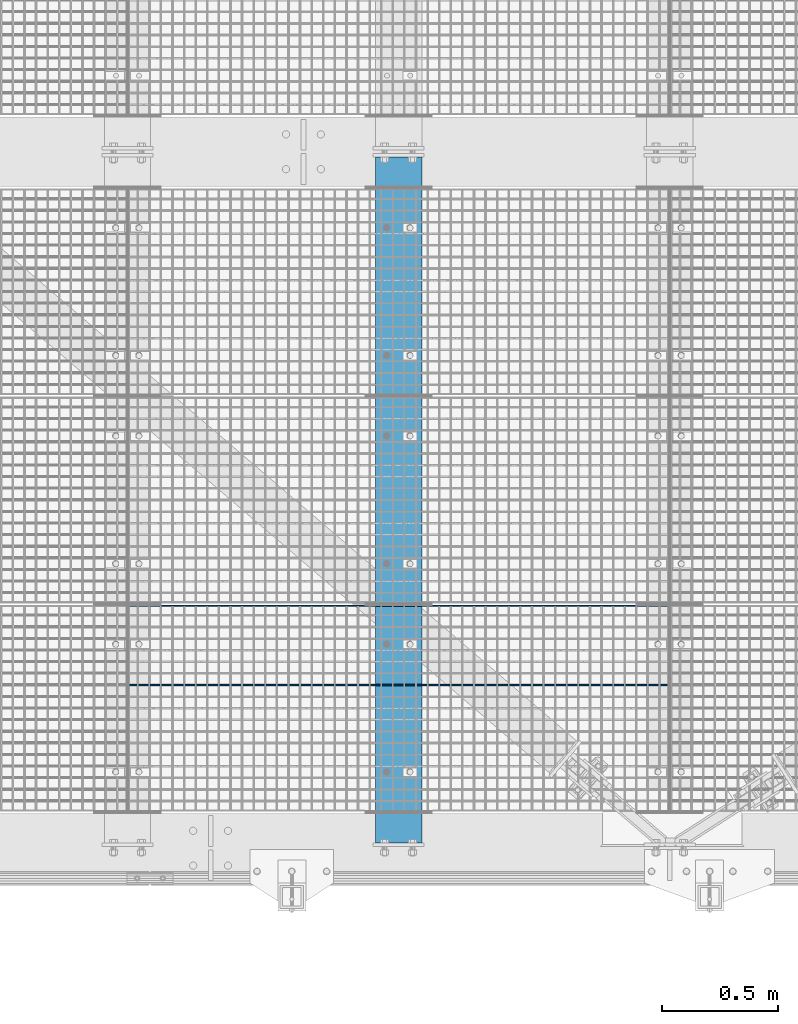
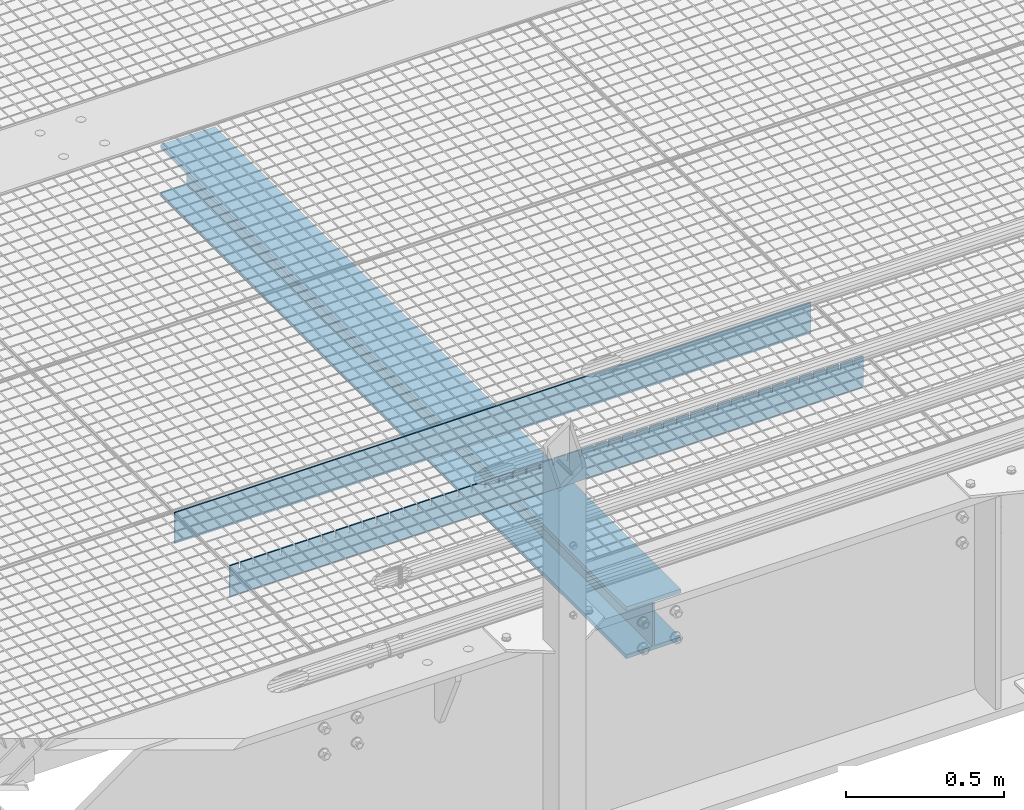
# One storey, part 237 of 1530: 3 beams.
"""IFC2X3 building model written with IfcOpenShell, lengths in millimetres."""

from ifc_helpers import new_model, si_unit, frame, origin_with_axes, place, context, subcontext, project, spatial, faceted_brep, material, type_object, element, save


model = new_model("IFC2X3")

# Units and contexts
model_context = context("Model", 3, precision=1e-05, world=origin_with_axes())
body_context = subcontext(model_context, "Body", "Model", "MODEL_VIEW")
ifc_project = project(units=[si_unit("LENGTHUNIT", "METRE", prefix="MILLI"), si_unit("AREAUNIT", "SQUARE_METRE"), si_unit("VOLUMEUNIT", "CUBIC_METRE"), si_unit("MASSUNIT", "GRAM", prefix="KILO"), si_unit("TIMEUNIT", "SECOND"), si_unit("PLANEANGLEUNIT", "RADIAN"), si_unit("SOLIDANGLEUNIT", "STERADIAN"), si_unit("THERMODYNAMICTEMPERATUREUNIT", "DEGREE_CELSIUS"), si_unit("LUMINOUSINTENSITYUNIT", "LUMEN")], contexts=[model_context])

# Site, building, storey
site_placement = place(None, origin_with_axes())
site = spatial("IfcSite", under=ifc_project, at=site_placement, Name="Brattvåg", CompositionType="ELEMENT")
building_placement = place(site_placement, origin_with_axes())
building = spatial("IfcBuilding", under=site, at=building_placement, Name="Undefined", CompositionType="ELEMENT")
storey_placement = place(building_placement, origin_with_axes())
storey = spatial("IfcBuildingStorey", under=building, at=storey_placement, Name="Undefined", CompositionType="ELEMENT", Elevation=0.0)

# Beams
ifc_material_1 = material(Name="STEEL/S355J2")
beam_type_1 = type_object("IfcBeamType", Name="120*5", PredefinedType="NOTDEFINED")
beam_1_placement = place(storey_placement, frame((7570.01317977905, 702.994873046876, -59.9998626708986), z_axis=(0.0, 0.0, 1.0), x_axis=(-1.0, 1.99999855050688e-09, 0.0)))
element("IfcBeam", 1, at=beam_1_placement, inside=storey, type_object=beam_type_1, material=ifc_material_1, Name="GRATING", context=body_context, shape_type="Brep", body=[
    faceted_brep([(83.5790367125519, -2.50000000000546, 60.0000722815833), (83.5790367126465, -2.50000000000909, 35.0001373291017), (83.5790367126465, 2.50022888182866, 35.0001373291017), (83.5790367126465, 2.5, 60.0), (88.5790367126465, -2.50000000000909, 35.0001373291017), (88.5790367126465, 2.50022888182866, 35.0001373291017), (88.5790367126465, -2.50000000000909, 60.0001373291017), (88.5790367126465, 2.5, 60.0), (38.6284370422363, -2.50000000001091, 60.0001373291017), (38.6284370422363, 2.5, 60.0), (38.6284370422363, 2.49999999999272, 35.0001373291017), (38.6284370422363, -2.50000000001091, 35.0001373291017), (33.6284370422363, 2.49999999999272, 35.0001373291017), (33.6284370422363, -2.50000000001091, 35.0001373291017), (33.6284370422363, -2.5, 60.0), (33.6284370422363, 2.5, 60.0), (0.0, 2.5, 60.0), (0.0, -2.5, 60.0), (0.0, -2.5, -60.0), (0.0, 2.5, -60.0), (2319.99865722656, 2.5, -60.0), (2319.99865722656, -2.5, -60.0), (2319.99865722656, -2.5, 60.0), (2319.99865722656, 2.5, 60.0), (2286.37871932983, 2.5, 60.0), (2286.37871932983, -2.50000000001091, 60.0001373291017), (2286.37871932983, 2.49999999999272, 35.0001373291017), (2286.37871932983, -2.50000000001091, 35.0001373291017), (2281.37871932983, 2.49999999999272, 35.0001373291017), (2281.37871932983, -2.50000000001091, 35.0001373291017), (2281.37871932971, -2.50000000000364, 60.0000634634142), (2281.37871932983, 2.5, 60.0), (2236.42859649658, 2.5, 60.0), (2236.42859649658, -2.50000000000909, 60.0001373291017), (2236.42859649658, 2.50022888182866, 35.0001373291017), (2236.42859649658, -2.50000000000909, 35.0001373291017), (2231.42859649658, 2.50022888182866, 35.0001373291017), (2231.42859649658, -2.50000000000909, 35.0001373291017), (2231.42859649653, -2.50000000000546, 60.0000910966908), (2231.42859649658, 2.5, 60.0), (2186.47847366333, 2.5, 60.0), (2186.47847366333, -2.50000000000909, 60.0001373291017), (2186.47847366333, 2.50022888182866, 35.0001373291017), (2186.47847366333, -2.50000000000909, 35.0001373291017), (2181.47847366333, 2.50022888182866, 35.0001373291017), (2181.47847366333, -2.50000000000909, 35.0001373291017), (2181.47847366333, -2.5, 60.0), (2181.47847366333, 2.5, 60.0), (2136.52882766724, 2.5, 60.0), (2136.52882766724, -2.50000000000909, 60.0001373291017), (2136.52882766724, 2.50022888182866, 35.0001373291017), (2136.52882766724, -2.50000000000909, 35.0001373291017), (2131.52882766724, 2.50022888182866, 35.0001373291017), (2131.52882766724, -2.50000000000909, 35.0001373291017), (2131.52882766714, -2.50000000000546, 60.0000722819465), (2131.52882766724, 2.5, 60.0), (2086.57870483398, 2.5, 60.0), (2086.57870483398, -2.50000000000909, 60.0001373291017), (2086.57870483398, 2.50022888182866, 35.0001373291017), (2086.57870483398, -2.50000000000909, 35.0001373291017), (2081.57870483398, 2.50022888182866, 35.0001373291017), (2081.57870483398, -2.50000000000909, 35.0001373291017), (2081.57870483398, -2.5, 60.0), (2081.57870483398, 2.5, 60.0), (2036.62858200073, 2.5, 60.0), (2036.62858200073, -2.50000000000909, 60.0001373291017), (2036.62858200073, 2.50022888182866, 35.0001373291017), (2036.62858200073, -2.50000000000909, 35.0001373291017), (2031.62858200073, 2.50022888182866, 35.0001373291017), (2031.62858200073, -2.50000000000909, 35.0001373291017), (2031.62858200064, -2.50000000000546, 60.0000722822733), (2031.62858200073, 2.5, 60.0), (1986.67845916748, 2.5, 60.0), (1986.67845916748, -2.50000000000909, 60.0001373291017), (1986.67845916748, 2.50022888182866, 35.0001373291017), (1986.67845916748, -2.50000000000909, 35.0001373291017), (1981.67845916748, 2.50022888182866, 35.0001373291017), (1981.67845916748, -2.50000000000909, 35.0001373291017), (1981.67845916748, -2.5, 60.0), (1981.67845916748, 2.5, 60.0), (1936.72881317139, 2.5, 60.0), (1936.72881317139, -2.50000000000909, 60.0001373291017), (1936.72881317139, 2.50022888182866, 35.0001373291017), (1936.72881317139, -2.50000000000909, 35.0001373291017), (1931.72881317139, 2.50022888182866, 35.0001373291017), (1931.72881317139, -2.50000000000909, 35.0001373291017), (1931.72881317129, -2.50000000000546, 60.0000722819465), (1931.72881317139, 2.5, 60.0), (1886.77869033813, 2.5, 60.0), (1886.77869033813, -2.50000000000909, 60.0001373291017), (1886.77869033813, 2.50022888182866, 35.0001373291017), (1886.77869033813, -2.50000000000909, 35.0001373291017), (1881.77869033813, 2.50022888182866, 35.0001373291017), (1881.77869033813, -2.50000000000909, 35.0001373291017), (1881.77869033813, -2.5, 60.0), (1881.77869033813, 2.5, 60.0), (1836.82856750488, 2.5, 60.0), (1836.82856750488, -2.50000000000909, 60.0001373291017), (1836.82856750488, 2.50022888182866, 35.0001373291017), (1836.82856750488, -2.50000000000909, 35.0001373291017), (1831.82856750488, 2.50022888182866, 35.0001373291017), (1831.82856750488, -2.50000000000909, 35.0001373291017), (1831.82856750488, -2.5, 60.0), (1831.82856750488, 2.5, 60.0), (1786.87892150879, 2.5, 60.0), (1786.87892150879, -2.50000000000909, 60.0001373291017), (1786.87892150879, 2.50022888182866, 35.0001373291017), (1786.87892150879, -2.50000000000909, 35.0001373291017), (1781.87892150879, 2.50022888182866, 35.0001373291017), (1781.87892150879, -2.50000000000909, 35.0001373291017), (1781.87892150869, -2.50000000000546, 60.0000722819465), (1781.87892150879, 2.5, 60.0), (1736.92879867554, 2.5, 60.0), (1736.92879867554, -2.50000000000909, 60.0001373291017), (1736.92879867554, 2.50022888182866, 35.0001373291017), (1736.92879867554, -2.50000000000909, 35.0001373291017), (1731.92879867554, 2.50022888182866, 35.0001373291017), (1731.92879867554, -2.50000000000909, 35.0001373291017), (1731.92879867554, -2.5, 60.0), (1731.92879867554, 2.5, 60.0), (1686.97867584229, 2.5, 60.0), (1686.97867584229, -2.50000000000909, 60.0001373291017), (1686.97867584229, 2.50022888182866, 35.0001373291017), (1686.97867584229, -2.50000000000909, 35.0001373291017), (1681.97867584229, 2.50022888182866, 35.0001373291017), (1681.97867584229, -2.50000000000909, 35.0001373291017), (1681.97867584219, -2.50000000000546, 60.0000722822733), (1681.97867584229, 2.5, 60.0), (1637.02855300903, 2.5, 60.0), (1637.02855300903, -2.50000000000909, 60.0001373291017), (1637.02855300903, 2.50022888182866, 35.0001373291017), (1637.02855300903, -2.50000000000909, 35.0001373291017), (1632.02855300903, 2.50022888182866, 35.0001373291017), (1632.02855300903, -2.50000000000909, 35.0001373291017), (1632.02855300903, -2.5, 60.0), (1632.02855300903, 2.5, 60.0), (1587.07890701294, 2.5, 60.0), (1587.07890701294, -2.50000000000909, 60.0001373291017), (1587.07890701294, 2.50022888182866, 35.0001373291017), (1587.07890701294, -2.50000000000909, 35.0001373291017), (1582.07890701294, 2.50022888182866, 35.0001373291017), (1582.07890701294, -2.50000000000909, 35.0001373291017), (1582.07890701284, -2.50000000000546, 60.0000722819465), (1582.07890701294, 2.5, 60.0), (1537.12878417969, 2.5, 60.0), (1537.12878417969, -2.50000000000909, 60.0001373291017), (1537.12878417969, 2.50022888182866, 35.0001373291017), (1537.12878417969, -2.50000000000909, 35.0001373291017), (1532.12878417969, 2.50022888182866, 35.0001373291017), (1532.12878417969, -2.50000000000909, 35.0001373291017), (1532.12878417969, -2.5, 60.0), (1532.12878417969, 2.5, 60.0), (1487.17866134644, 2.5, 60.0), (1487.17866134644, -2.50000000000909, 60.0001373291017), (1487.17866134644, 2.50022888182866, 35.0001373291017), (1487.17866134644, -2.50000000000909, 35.0001373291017), (1482.17866134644, 2.50022888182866, 35.0001373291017), (1482.17866134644, -2.50000000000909, 35.0001373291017), (1482.17866134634, -2.50000000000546, 60.0000722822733), (1482.17866134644, 2.5, 60.0), (1437.22853851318, 2.5, 60.0), (1437.22853851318, -2.50000000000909, 60.0001373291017), (1437.22853851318, 2.50022888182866, 35.0001373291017), (1437.22853851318, -2.50000000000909, 35.0001373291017), (1432.22853851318, 2.50022888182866, 35.0001373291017), (1432.22853851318, -2.50000000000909, 35.0001373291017), (1432.22853851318, -2.5, 60.0), (1432.22853851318, 2.5, 60.0), (1387.27889251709, 2.5, 60.0), (1387.27889251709, -2.50000000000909, 60.0001373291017), (1387.27889251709, 2.50022888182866, 35.0001373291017), (1387.27889251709, -2.50000000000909, 35.0001373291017), (1382.27889251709, 2.50022888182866, 35.0001373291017), (1382.27889251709, -2.50000000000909, 35.0001373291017), (1382.278892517, -2.50000000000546, 60.0000722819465), (1382.27889251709, 2.5, 60.0), (1337.32876968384, 2.5, 60.0), (1337.32876968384, -2.50000000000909, 60.0001373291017), (1337.32876968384, 2.50022888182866, 35.0001373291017), (1337.32876968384, -2.50000000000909, 35.0001373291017), (1332.32876968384, 2.50022888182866, 35.0001373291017), (1332.32876968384, -2.50000000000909, 35.0001373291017), (1332.32876968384, -2.5, 60.0), (1332.32876968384, 2.5, 60.0), (1287.37864685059, 2.5, 60.0), (1287.37864685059, -2.50000000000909, 60.0001373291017), (1287.37864685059, 2.50022888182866, 35.0001373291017), (1287.37864685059, -2.50000000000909, 35.0001373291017), (1282.37864685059, 2.50022888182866, 35.0001373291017), (1282.37864685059, -2.50000000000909, 35.0001373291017), (1282.37864685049, -2.50000000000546, 60.0000722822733), (1282.37864685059, 2.5, 60.0), (1237.42852401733, 2.5, 60.0), (1237.42852401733, -2.50000000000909, 60.0001373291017), (1237.42852401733, 2.50022888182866, 35.0001373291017), (1237.42852401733, -2.50000000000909, 35.0001373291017), (1232.42852401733, 2.50022888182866, 35.0001373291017), (1232.42852401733, -2.50000000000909, 35.0001373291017), (1232.42852401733, -2.5, 60.0), (1232.42852401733, 2.5, 60.0), (1187.47887802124, 2.5, 60.0), (1187.47887802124, -2.50000000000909, 60.0001373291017), (1187.47887802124, 2.50022888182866, 35.0001373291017), (1187.47887802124, -2.50000000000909, 35.0001373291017), (1182.47887802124, 2.50022888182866, 35.0001373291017), (1182.47887802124, -2.50000000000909, 35.0001373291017), (1182.47887802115, -2.50000000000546, 60.0000722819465), (1182.47887802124, 2.5, 60.0), (1137.52875518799, 2.5, 60.0), (1137.52875518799, -2.50000000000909, 60.0001373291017), (1137.52875518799, 2.50022888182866, 35.0001373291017), (1137.52875518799, -2.50000000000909, 35.0001373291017), (1132.52875518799, 2.50022888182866, 35.0001373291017), (1132.52875518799, -2.50000000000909, 35.0001373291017), (1132.52875518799, -2.5, 60.0), (1132.52875518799, 2.5, 60.0), (1087.57863235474, 2.5, 60.0), (1087.57863235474, -2.50000000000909, 60.0001373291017), (1087.57863235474, 2.50022888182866, 35.0001373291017), (1087.57863235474, -2.50000000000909, 35.0001373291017), (1082.57863235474, 2.50022888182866, 35.0001373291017), (1082.57863235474, -2.50000000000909, 35.0001373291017), (1082.57863235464, -2.50000000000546, 60.0000722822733), (1082.57863235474, 2.5, 60.0), (1037.62850952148, 2.5, 60.0), (1037.62850952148, -2.50000000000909, 60.0001373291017), (1037.62850952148, 2.50022888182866, 35.0001373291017), (1037.62850952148, -2.50000000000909, 35.0001373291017), (1032.62850952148, 2.50022888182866, 35.0001373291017), (1032.62850952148, -2.50000000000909, 35.0001373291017), (1032.62850952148, -2.5, 60.0), (1032.62850952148, 2.5, 60.0), (987.678863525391, 2.5, 60.0), (987.678863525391, -2.50000000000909, 60.0001373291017), (987.678863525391, 2.50022888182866, 35.0001373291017), (987.678863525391, -2.50000000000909, 35.0001373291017), (982.678863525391, 2.50022888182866, 35.0001373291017), (982.678863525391, -2.50000000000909, 35.0001373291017), (982.678863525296, -2.50000000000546, 60.0000722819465), (982.678863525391, 2.5, 60.0), (937.728740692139, 2.5, 60.0), (937.728740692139, -2.50000000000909, 60.0001373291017), (937.728740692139, 2.50022888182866, 35.0001373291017), (937.728740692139, -2.50000000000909, 35.0001373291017), (932.728740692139, 2.50022888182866, 35.0001373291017), (932.728740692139, -2.50000000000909, 35.0001373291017), (932.728740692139, -2.5, 60.0), (932.728740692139, 2.5, 60.0), (887.778617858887, 2.5, 60.0), (887.778617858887, -2.50000000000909, 60.0001373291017), (887.778617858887, 2.50022888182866, 35.0001373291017), (887.778617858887, -2.50000000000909, 35.0001373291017), (882.778617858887, 2.50022888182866, 35.0001373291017), (882.778617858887, -2.50000000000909, 35.0001373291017), (882.778617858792, -2.50000000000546, 60.0000722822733), (882.778617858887, 2.5, 60.0), (837.828495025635, 2.5, 60.0), (837.828495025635, -2.50000000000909, 60.0001373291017), (837.828495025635, 2.50022888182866, 35.0001373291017), (837.828495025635, -2.50000000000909, 35.0001373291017), (832.828495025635, 2.50022888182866, 35.0001373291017), (832.828495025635, -2.50000000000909, 35.0001373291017), (832.828495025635, -2.5, 60.0), (832.828495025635, 2.5, 60.0), (787.878849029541, 2.5, 60.0), (787.878849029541, -2.50000000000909, 60.0001373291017), (787.878849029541, 2.50022888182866, 35.0001373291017), (787.878849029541, -2.50000000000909, 35.0001373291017), (782.878849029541, 2.50022888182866, 35.0001373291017), (782.878849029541, -2.50000000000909, 35.0001373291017), (782.878849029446, -2.50000000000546, 60.0000722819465), (782.878849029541, 2.5, 60.0), (737.928726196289, 2.5, 60.0), (737.928726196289, -2.50000000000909, 60.0001373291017), (737.928726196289, 2.50022888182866, 35.0001373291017), (737.928726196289, -2.50000000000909, 35.0001373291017), (732.928726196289, 2.50022888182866, 35.0001373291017), (732.928726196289, -2.50000000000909, 35.0001373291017), (732.928726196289, -2.5, 60.0), (732.928726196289, 2.5, 60.0), (687.978603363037, 2.5, 60.0), (687.978603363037, -2.50000000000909, 60.0001373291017), (687.978603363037, 2.50022888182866, 35.0001373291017), (687.978603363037, -2.50000000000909, 35.0001373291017), (682.978603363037, 2.50022888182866, 35.0001373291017), (682.978603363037, -2.50000000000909, 35.0001373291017), (682.978603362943, -2.50000000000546, 60.0000722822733), (682.978603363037, 2.5, 60.0), (638.028480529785, 2.5, 60.0), (638.028480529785, -2.50000000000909, 60.0001373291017), (638.028480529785, 2.50022888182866, 35.0001373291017), (638.028480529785, -2.50000000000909, 35.0001373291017), (633.028480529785, 2.50022888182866, 35.0001373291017), (633.028480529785, -2.50000000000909, 35.0001373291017), (633.028480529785, -2.5, 60.0), (633.028480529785, 2.5, 60.0), (588.078834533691, 2.5, 60.0), (588.078834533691, -2.50000000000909, 60.0001373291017), (588.078834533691, 2.50022888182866, 35.0001373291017), (588.078834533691, -2.50000000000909, 35.0001373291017), (583.078834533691, 2.50022888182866, 35.0001373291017), (583.078834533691, -2.50000000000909, 35.0001373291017), (583.078834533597, -2.50000000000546, 60.0000722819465), (583.078834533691, 2.5, 60.0), (538.128711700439, 2.5, 60.0), (538.128711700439, -2.50000000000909, 60.0001373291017), (538.128711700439, 2.50022888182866, 35.0001373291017), (538.128711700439, -2.50000000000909, 35.0001373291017), (533.128711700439, 2.50022888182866, 35.0001373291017), (533.128711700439, -2.50000000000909, 35.0001373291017), (533.128711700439, -2.5, 60.0), (533.128711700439, 2.5, 60.0), (488.178588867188, 2.5, 60.0), (488.178588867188, -2.50000000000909, 60.0001373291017), (488.178588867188, 2.50022888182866, 35.0001373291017), (488.178588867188, -2.50000000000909, 35.0001373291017), (483.178588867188, 2.50022888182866, 35.0001373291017), (483.178588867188, -2.50000000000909, 35.0001373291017), (483.178588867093, -2.50000000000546, 60.0000722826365), (483.178588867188, 2.5, 60.0), (438.228942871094, 2.5, 60.0), (438.228942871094, -2.50000000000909, 60.0001373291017), (438.228942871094, 2.50022888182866, 35.0001373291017), (438.228942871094, -2.50000000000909, 35.0001373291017), (433.228942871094, 2.50022888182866, 35.0001373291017), (433.228942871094, -2.50000000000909, 35.0001373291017), (433.228942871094, -2.5, 60.0), (433.228942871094, 2.5, 60.0), (388.278820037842, 2.5, 60.0), (388.278820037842, -2.50000000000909, 60.0001373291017), (388.278820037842, 2.50022888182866, 35.0001373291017), (388.278820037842, -2.50000000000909, 35.0001373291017), (383.278820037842, 2.50022888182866, 35.0001373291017), (383.278820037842, -2.50000000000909, 35.0001373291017), (383.278820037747, -2.50000000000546, 60.0000722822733), (383.278820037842, 2.5, 60.0), (338.32869720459, 2.5, 60.0), (338.32869720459, -2.50000000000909, 60.0001373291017), (338.32869720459, 2.50022888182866, 35.0001373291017), (338.32869720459, -2.50000000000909, 35.0001373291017), (333.32869720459, 2.50022888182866, 35.0001373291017), (333.32869720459, -2.50000000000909, 35.0001373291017), (333.32869720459, -2.5, 60.0), (333.32869720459, 2.5, 60.0), (288.378574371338, 2.5, 60.0), (288.378574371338, -2.50000000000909, 60.0001373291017), (288.378574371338, 2.50022888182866, 35.0001373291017), (288.378574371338, -2.50000000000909, 35.0001373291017), (283.378574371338, 2.50022888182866, 35.0001373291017), (283.378574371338, -2.50000000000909, 35.0001373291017), (283.378574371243, -2.50000000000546, 60.0000722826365), (283.378574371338, 2.5, 60.0), (238.428928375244, 2.5, 60.0), (238.428928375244, -2.50000000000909, 60.0001373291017), (238.428928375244, 2.50022888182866, 35.0001373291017), (238.428928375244, -2.50000000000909, 35.0001373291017), (233.428928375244, 2.50022888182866, 35.0001373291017), (233.428928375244, -2.50000000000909, 35.0001373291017), (233.428928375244, -2.5, 60.0), (233.428928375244, 2.5, 60.0), (188.478328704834, 2.5, 60.0), (188.478328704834, -2.50000000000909, 60.0001373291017), (188.478328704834, 2.50022888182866, 35.0001373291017), (188.478328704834, -2.50000000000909, 35.0001373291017), (183.478328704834, 2.50022888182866, 35.0001373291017), (183.478328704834, -2.50000000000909, 35.0001373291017), (183.478328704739, -2.50000000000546, 60.0000722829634), (183.478328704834, 2.5, 60.0), (138.52868270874, 2.5, 60.0), (138.52868270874, -2.50000000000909, 60.0001373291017), (138.52868270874, 2.50022888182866, 35.0001373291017), (138.52868270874, -2.50000000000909, 35.0001373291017), (133.52868270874, 2.50022888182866, 35.0001373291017), (133.52868270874, -2.50000000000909, 35.0001373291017), (133.52868270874, -2.5, 60.0), (133.52868270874, 2.5, 60.0)], [[[0, 1, 2, 3]], [[4, 5, 2, 1]], [[6, 7, 5, 4]], [[8, 9, 10, 11]], [[11, 10, 12, 13]], [[14, 13, 12, 15]], [[16, 17, 14, 15]], [[18, 17, 16, 19]], [[18, 19, 20, 21]], [[22, 21, 20, 23]], [[22, 23, 24, 25]], [[25, 24, 26, 27]], [[27, 26, 28, 29]], [[30, 29, 28, 31]], [[32, 33, 30, 31]], [[33, 32, 34, 35]], [[35, 34, 36, 37]], [[38, 37, 36, 39]], [[40, 41, 38, 39]], [[41, 40, 42, 43]], [[43, 42, 44, 45]], [[46, 45, 44, 47]], [[46, 47, 48, 49]], [[49, 48, 50, 51]], [[51, 50, 52, 53]], [[54, 53, 52, 55]], [[56, 57, 54, 55]], [[57, 56, 58, 59]], [[59, 58, 60, 61]], [[62, 61, 60, 63]], [[62, 63, 64, 65]], [[65, 64, 66, 67]], [[67, 66, 68, 69]], [[70, 69, 68, 71]], [[72, 73, 70, 71]], [[73, 72, 74, 75]], [[75, 74, 76, 77]], [[78, 77, 76, 79]], [[78, 79, 80, 81]], [[81, 80, 82, 83]], [[83, 82, 84, 85]], [[86, 85, 84, 87]], [[88, 89, 86, 87]], [[89, 88, 90, 91]], [[91, 90, 92, 93]], [[94, 93, 92, 95]], [[94, 95, 96, 97]], [[97, 96, 98, 99]], [[99, 98, 100, 101]], [[102, 101, 100, 103]], [[102, 103, 104, 105]], [[105, 104, 106, 107]], [[107, 106, 108, 109]], [[110, 109, 108, 111]], [[112, 113, 110, 111]], [[113, 112, 114, 115]], [[115, 114, 116, 117]], [[118, 117, 116, 119]], [[118, 119, 120, 121]], [[121, 120, 122, 123]], [[123, 122, 124, 125]], [[126, 125, 124, 127]], [[128, 129, 126, 127]], [[129, 128, 130, 131]], [[131, 130, 132, 133]], [[134, 133, 132, 135]], [[134, 135, 136, 137]], [[137, 136, 138, 139]], [[139, 138, 140, 141]], [[142, 141, 140, 143]], [[144, 145, 142, 143]], [[145, 144, 146, 147]], [[147, 146, 148, 149]], [[150, 149, 148, 151]], [[150, 151, 152, 153]], [[153, 152, 154, 155]], [[155, 154, 156, 157]], [[158, 157, 156, 159]], [[160, 161, 158, 159]], [[161, 160, 162, 163]], [[163, 162, 164, 165]], [[166, 165, 164, 167]], [[166, 167, 168, 169]], [[169, 168, 170, 171]], [[171, 170, 172, 173]], [[174, 173, 172, 175]], [[176, 177, 174, 175]], [[177, 176, 178, 179]], [[179, 178, 180, 181]], [[182, 181, 180, 183]], [[182, 183, 184, 185]], [[185, 184, 186, 187]], [[187, 186, 188, 189]], [[190, 189, 188, 191]], [[192, 193, 190, 191]], [[193, 192, 194, 195]], [[195, 194, 196, 197]], [[198, 197, 196, 199]], [[198, 199, 200, 201]], [[201, 200, 202, 203]], [[203, 202, 204, 205]], [[206, 205, 204, 207]], [[208, 209, 206, 207]], [[209, 208, 210, 211]], [[211, 210, 212, 213]], [[214, 213, 212, 215]], [[214, 215, 216, 217]], [[217, 216, 218, 219]], [[219, 218, 220, 221]], [[222, 221, 220, 223]], [[224, 225, 222, 223]], [[225, 224, 226, 227]], [[227, 226, 228, 229]], [[230, 229, 228, 231]], [[230, 231, 232, 233]], [[233, 232, 234, 235]], [[235, 234, 236, 237]], [[238, 237, 236, 239]], [[240, 241, 238, 239]], [[241, 240, 242, 243]], [[243, 242, 244, 245]], [[246, 245, 244, 247]], [[246, 247, 248, 249]], [[249, 248, 250, 251]], [[251, 250, 252, 253]], [[254, 253, 252, 255]], [[256, 257, 254, 255]], [[257, 256, 258, 259]], [[259, 258, 260, 261]], [[262, 261, 260, 263]], [[262, 263, 264, 265]], [[265, 264, 266, 267]], [[267, 266, 268, 269]], [[270, 269, 268, 271]], [[272, 273, 270, 271]], [[273, 272, 274, 275]], [[275, 274, 276, 277]], [[278, 277, 276, 279]], [[278, 279, 280, 281]], [[281, 280, 282, 283]], [[283, 282, 284, 285]], [[286, 285, 284, 287]], [[288, 289, 286, 287]], [[289, 288, 290, 291]], [[291, 290, 292, 293]], [[294, 293, 292, 295]], [[294, 295, 296, 297]], [[297, 296, 298, 299]], [[299, 298, 300, 301]], [[302, 301, 300, 303]], [[304, 305, 302, 303]], [[305, 304, 306, 307]], [[307, 306, 308, 309]], [[310, 309, 308, 311]], [[310, 311, 312, 313]], [[313, 312, 314, 315]], [[315, 314, 316, 317]], [[318, 317, 316, 319]], [[320, 321, 318, 319]], [[321, 320, 322, 323]], [[323, 322, 324, 325]], [[326, 325, 324, 327]], [[326, 327, 328, 329]], [[329, 328, 330, 331]], [[331, 330, 332, 333]], [[334, 333, 332, 335]], [[336, 337, 334, 335]], [[337, 336, 338, 339]], [[339, 338, 340, 341]], [[342, 341, 340, 343]], [[342, 343, 344, 345]], [[345, 344, 346, 347]], [[347, 346, 348, 349]], [[350, 349, 348, 351]], [[352, 353, 350, 351]], [[353, 352, 354, 355]], [[355, 354, 356, 357]], [[358, 357, 356, 359]], [[358, 359, 360, 361]], [[361, 360, 362, 363]], [[363, 362, 364, 365]], [[366, 365, 364, 367]], [[368, 369, 366, 367]], [[369, 368, 370, 371]], [[371, 370, 372, 373]], [[374, 373, 372, 375]], [[1, 0, 8, 11, 13, 14, 17, 18, 21, 22, 25, 27, 29, 30, 33, 35, 37, 38, 41, 43, 45, 46, 49, 51, 53, 54, 57, 59, 61, 62, 65, 67, 69, 70, 73, 75, 77, 78, 81, 83, 85, 86, 89, 91, 93, 94, 97, 99, 101, 102, 105, 107, 109, 110, 113, 115, 117, 118, 121, 123, 125, 126, 129, 131, 133, 134, 137, 139, 141, 142, 145, 147, 149, 150, 153, 155, 157, 158, 161, 163, 165, 166, 169, 171, 173, 174, 177, 179, 181, 182, 185, 187, 189, 190, 193, 195, 197, 198, 201, 203, 205, 206, 209, 211, 213, 214, 217, 219, 221, 222, 225, 227, 229, 230, 233, 235, 237, 238, 241, 243, 245, 246, 249, 251, 253, 254, 257, 259, 261, 262, 265, 267, 269, 270, 273, 275, 277, 278, 281, 283, 285, 286, 289, 291, 293, 294, 297, 299, 301, 302, 305, 307, 309, 310, 313, 315, 317, 318, 321, 323, 325, 326, 329, 331, 333, 334, 337, 339, 341, 342, 345, 347, 349, 350, 353, 355, 357, 358, 361, 363, 365, 366, 369, 371, 373, 374, 6, 4]], [[9, 8, 0, 3]], [[375, 372, 370, 368, 367, 364, 362, 360, 359, 356, 354, 352, 351, 348, 346, 344, 343, 340, 338, 336, 335, 332, 330, 328, 327, 324, 322, 320, 319, 316, 314, 312, 311, 308, 306, 304, 303, 300, 298, 296, 295, 292, 290, 288, 287, 284, 282, 280, 279, 276, 274, 272, 271, 268, 266, 264, 263, 260, 258, 256, 255, 252, 250, 248, 247, 244, 242, 240, 239, 236, 234, 232, 231, 228, 226, 224, 223, 220, 218, 216, 215, 212, 210, 208, 207, 204, 202, 200, 199, 196, 194, 192, 191, 188, 186, 184, 183, 180, 178, 176, 175, 172, 170, 168, 167, 164, 162, 160, 159, 156, 154, 152, 151, 148, 146, 144, 143, 140, 138, 136, 135, 132, 130, 128, 127, 124, 122, 120, 119, 116, 114, 112, 111, 108, 106, 104, 103, 100, 98, 96, 95, 92, 90, 88, 87, 84, 82, 80, 79, 76, 74, 72, 71, 68, 66, 64, 63, 60, 58, 56, 55, 52, 50, 48, 47, 44, 42, 40, 39, 36, 34, 32, 31, 28, 26, 24, 23, 20, 19, 16, 15, 12, 10, 9, 3, 2, 5, 7]], [[374, 375, 7, 6]]]),
])
beam_2_placement = place(storey_placement, frame((7575.00899291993, 1044.49917602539, -59.9998626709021), z_axis=(0.0, 0.0, 1.0), x_axis=(-1.0, 1.99999855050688e-09, 0.0)))
element("IfcBeam", 2, at=beam_2_placement, inside=storey, type_object=beam_type_1, material=ifc_material_1, Name="GRATING", context=body_context, shape_type="Brep", body=[
    faceted_brep([(0.0, 2.5, -60.0), (0.0, 2.5, 60.0), (2329.99832153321, 2.5, 60.0), (2329.99832153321, 2.5, -60.0), (0.0, -2.5, 60.0), (2329.99832153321, -2.5, 60.0), (0.0, -2.5, -60.0), (2329.99832153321, -2.5, -60.0)], [[[0, 1, 2, 3]], [[1, 4, 5, 2]], [[4, 6, 7, 5]], [[6, 0, 3, 7]], [[5, 7, 3, 2]], [[6, 4, 1, 0]]]),
])
ifc_material_2 = material(Name="STEEL/S355J2+N")
beam_type_2 = type_object("IfcBeamType", Name="HEB200", PredefinedType="NOTDEFINED")
beam_3_placement = place(storey_placement, frame((6410.00112915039, 23.0015563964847, -219.998931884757), z_axis=(0.0, 0.0, 1.0), x_axis=(0.0, 1.0, 0.0)))
element("IfcBeam", 3, at=beam_3_placement, inside=storey, type_object=beam_type_2, material=ifc_material_2, Name="STÅLBJELKE", context=body_context, shape_type="Brep", body=[
    faceted_brep([(0.0, 100.0, -100.0), (0.0, 100.0, -85.0), (2953.99993896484, 100.0, -85.0), (2953.99993896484, 100.0, -100.0), (0.0, 4.5, -85.0), (2953.99993896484, 4.5, -85.0), (0.0, 4.5, 85.0), (2953.99993896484, 4.5, 85.0), (0.0, 100.0, 85.0), (2953.99993896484, 100.0, 85.0), (0.0, 100.0, 100.0), (2953.99993896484, 100.0, 100.0), (0.0, -100.0, 100.0), (2953.99993896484, -100.0, 100.0), (0.0, -100.0, 85.0), (2953.99993896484, -100.0, 85.0), (0.0, -4.5, 85.0), (2953.99993896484, -4.5, 85.0), (0.0, -4.5, -85.0), (2953.99993896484, -4.5, -85.0), (0.0, -100.0, -85.0), (2953.99993896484, -100.0, -85.0), (0.0, -100.0, -100.0), (2953.99993896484, -100.0, -100.0)], [[[0, 1, 2, 3]], [[1, 4, 5, 2]], [[4, 6, 7, 5]], [[6, 8, 9, 7]], [[8, 10, 11, 9]], [[10, 12, 13, 11]], [[12, 14, 15, 13]], [[14, 16, 17, 15]], [[16, 18, 19, 17]], [[18, 20, 21, 19]], [[20, 22, 23, 21]], [[22, 0, 3, 23]], [[5, 7, 9, 11, 13, 15, 17, 19, 21, 23, 3, 2]], [[22, 20, 18, 16, 14, 12, 10, 8, 6, 4, 1, 0]]]),
])

save(model, "model.ifc")
